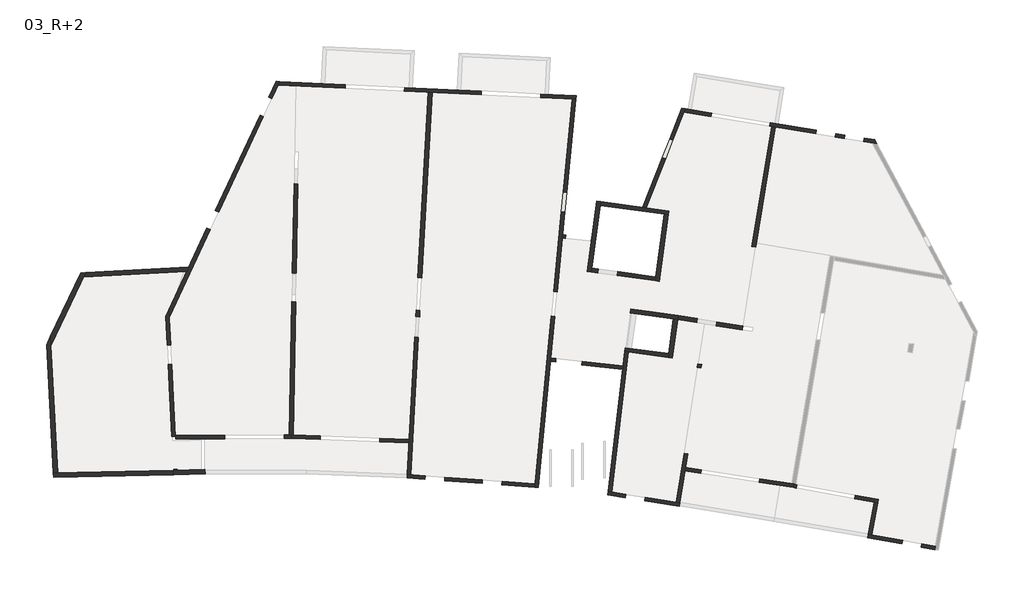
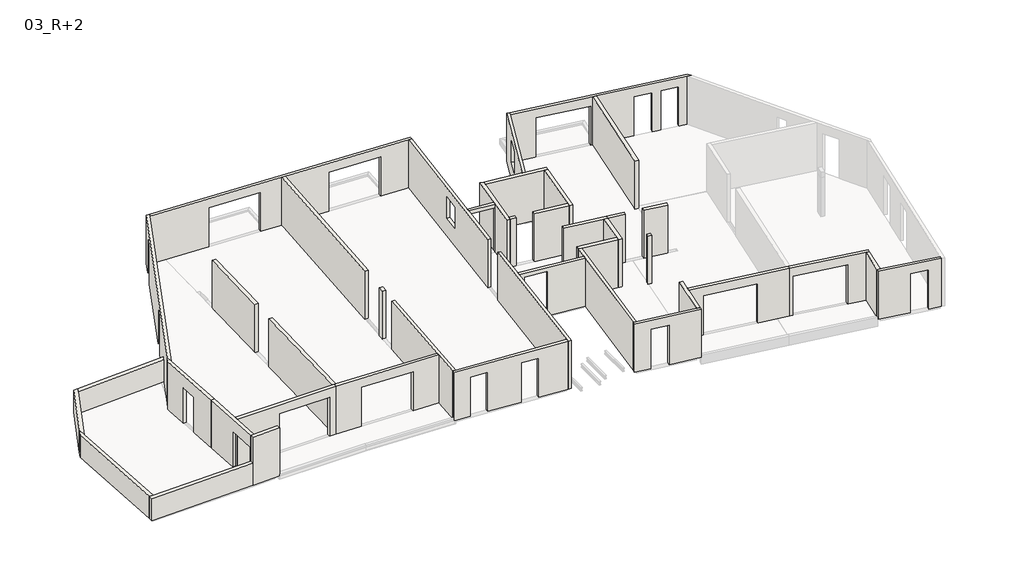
# One storey, part 1 of 2: 42 walls.
"""IFC4 building model written with IfcOpenShell, lengths in millimetres."""

import ifcopenshell
import ifcopenshell.guid

model = None  # the IFC model being written
_history = None  # IfcOwnerHistory: only IFC2X3 demands one
_inside = {}  # id of a spatial element -> (the spatial element, [elements in it])
_under = {}  # id of a project, library or spatial element -> (it, [spatial elements below it])
_declared = {}  # id of a project -> (the project, [libraries it declares])
_typed = {}  # id of a type object -> (the type object, [elements of that type])
_made_of = {}  # id of a material, layer set ... -> (it, [elements and type objects made of it])


def new_model(schema):
    """Start an empty IFC model of exactly this schema.

    Asked for "IFC4X3", IfcOpenShell would pick the latest addendum, in which some entities
    have other attributes; the version numbers below select the first issue.
    IFC2X3 requires an IfcOwnerHistory on every rooted entity: one is made here for all.
    """
    global model, _history
    if schema == "IFC4X3":
        model = ifcopenshell.file(schema_version=(4, 3, 0, 0))
    else:
        model = ifcopenshell.file(schema=schema)
    _inside.clear()
    _under.clear()
    _declared.clear()
    _typed.clear()
    _made_of.clear()
    _history = None
    if model.schema == "IFC2X3":
        org = make("IfcOrganization", Name="unknown")
        user = make(
            "IfcPersonAndOrganization",
            ThePerson=make("IfcPerson", FamilyName="unknown"),
            TheOrganization=org,
        )
        app = make(
            "IfcApplication",
            ApplicationDeveloper=org,
            Version="unknown",
            ApplicationFullName="unknown",
            ApplicationIdentifier="unknown",
        )
        _history = make(
            "IfcOwnerHistory",
            OwningUser=user,
            OwningApplication=app,
            ChangeAction="ADDED",
            CreationDate=0,
        )
    return model


def make(cls, **values):
    """One entity of the class cls with the attributes given. An attribute that is None is left unset."""
    return model.create_entity(
        cls, **{name: value for name, value in values.items() if value is not None}
    )


def rooted(cls, **values):
    """An entity with a GlobalId (a new one), such as an element, a storey or a relation."""
    return make(cls, GlobalId=ifcopenshell.guid.new(), OwnerHistory=_history, **values)


def si_unit(unit_type, name, prefix=None):
    """IfcSIUnit, for example si_unit("LENGTHUNIT", "METRE", prefix="MILLI")."""
    return make("IfcSIUnit", UnitType=unit_type, Prefix=prefix, Name=name)


def assignment(units):
    """IfcUnitAssignment: the units of a project."""
    return None if units is None else make("IfcUnitAssignment", Units=units)


def point(xyz):
    """IfcCartesianPoint."""
    return None if xyz is None else make("IfcCartesianPoint", Coordinates=xyz)


def direction(xyz):
    """IfcDirection."""
    return None if xyz is None else make("IfcDirection", DirectionRatios=xyz)


def frame(location, z_axis=None, x_axis=None):
    """IfcAxis2Placement3D, a coordinate frame: its origin and axes. An axis left out is left unset."""
    return make(
        "IfcAxis2Placement3D",
        Location=point(location),
        Axis=direction(z_axis),
        RefDirection=direction(x_axis),
    )


def origin():
    """The frame at (0, 0, 0) with its axes left unset."""
    return frame((0.0, 0.0, 0.0))


def place(relative_to, where):
    """IfcLocalPlacement: puts the frame where relative to a parent placement (None: the world)."""
    return make(
        "IfcLocalPlacement", PlacementRelTo=relative_to, RelativePlacement=where
    )


def context(
    kind, dimensions, precision=None, world=None, true_north=None, identifier=None
):
    """IfcGeometricRepresentationContext, for example the 3D "Model" context."""
    return make(
        "IfcGeometricRepresentationContext",
        ContextIdentifier=identifier,
        ContextType=kind,
        CoordinateSpaceDimension=dimensions,
        Precision=precision,
        WorldCoordinateSystem=world,
        TrueNorth=true_north,
    )


def project(units=None, contexts=None):
    """IfcProject with its units and contexts."""
    return rooted(
        "IfcProject",
        Name="project",
        RepresentationContexts=contexts,
        UnitsInContext=assignment(units),
    )


def spatial(cls, under=None, at=None, **own):
    """A site, building, storey or space (cls), placed at a placement, below another one or the project."""
    s = rooted(cls, ObjectPlacement=at, **own)
    if under is not None:
        _under.setdefault(under.id(), (under, []))[1].append(s)
    return s


def polyline(points):
    """IfcPolyline through the points."""
    return make("IfcPolyline", Points=[point(p) for p in points])


def outline(outer, holes=None, kind="AREA"):
    """IfcArbitraryClosedProfileDef: a profile drawn as a closed curve; with holes, ...WithVoids."""
    if holes is None:
        return make("IfcArbitraryClosedProfileDef", ProfileType=kind, OuterCurve=outer)
    return make(
        "IfcArbitraryProfileDefWithVoids",
        ProfileType=kind,
        OuterCurve=outer,
        InnerCurves=holes,
    )


def extrude(swept, where, along, depth):
    """IfcExtrudedAreaSolid: the profile swept, set in the frame where, extruded along a direction by depth."""
    return make(
        "IfcExtrudedAreaSolid",
        SweptArea=swept,
        Position=where,
        ExtrudedDirection=direction(along),
        Depth=depth,
    )


def faces_of(points, faces, orient=None, outer=None):
    """IfcFace entities. A face is a list of loops; a loop is a list of indices into points, from 0.

    orient and outer hold one flag for each loop. By default every Orientation is true, the
    first loop of a face is its IfcFaceOuterBound and the others are IfcFaceBound.
    """
    made = []
    for i, loops in enumerate(faces):
        bounds = []
        for j, loop in enumerate(loops):
            is_outer = j == 0 if outer is None else outer[i][j]
            bounds.append(
                make(
                    "IfcFaceOuterBound" if is_outer else "IfcFaceBound",
                    Bound=make("IfcPolyLoop", Polygon=[points[k] for k in loop]),
                    Orientation=True if orient is None else orient[i][j],
                )
            )
        made.append(make("IfcFace", Bounds=bounds))
    return made


def faceted_brep(points, faces, orient=None, outer=None, voids=None):
    """IfcFacetedBrep: a solid bounded by flat faces; with voids (closed shells), ...WithVoids."""
    shared = [point(p) for p in points]
    hull = make("IfcClosedShell", CfsFaces=faces_of(shared, faces, orient, outer))
    if voids is None:
        return make("IfcFacetedBrep", Outer=hull)
    return make(
        "IfcFacetedBrepWithVoids",
        Outer=hull,
        Voids=[
            make(cls, CfsFaces=faces_of(shared, fs, o, b)) for cls, fs, o, b in voids
        ],
    )


def shape(context_of_items, identifier, shape_type, items):
    """IfcShapeRepresentation: the items that make up one representation, for example the "Body"."""
    return make(
        "IfcShapeRepresentation",
        ContextOfItems=context_of_items,
        RepresentationIdentifier=identifier,
        RepresentationType=shape_type,
        Items=items,
    )


def made_of(thing, what):
    """Note that an element or type object is made of a material, layer set ...; save() writes the relation."""
    if what is not None:
        _made_of.setdefault(what.id(), (what, []))[1].append(thing)
    return thing


def element(
    cls,
    number,
    at=None,
    inside=None,
    cuts=None,
    type_object=None,
    material=None,
    context=None,
    identifier="Body",
    shape_type=None,
    held_by="IfcProductDefinitionShape",
    body=None,
    shapes=None,
    **own,
):
    """One element of the class cls, such as IfcWall. Its Tag is "e" and its number.

    at: its placement. inside: the storey or other place that contains it. cuts: it is an
    opening in that element (IfcRelVoidsElement). A single representation is given by context,
    identifier, shape_type and body (its items); several are given by shapes. held_by: the class
    of the entity that holds the representations. save() writes the other relations.
    """
    e = rooted(cls, Tag="e%d" % number, ObjectPlacement=at, **own)
    if body is not None:
        shapes = [shape(context, identifier, shape_type, body)]
    if shapes is not None:
        e.Representation = make(held_by, Representations=shapes)
    if inside is not None:
        _inside.setdefault(inside.id(), (inside, []))[1].append(e)
    if cuts is not None:
        rooted(
            "IfcRelVoidsElement", RelatingBuildingElement=cuts, RelatedOpeningElement=e
        )
    if type_object is not None:
        _typed.setdefault(type_object.id(), (type_object, []))[1].append(e)
    return made_of(e, material)


def aggregate(whole, parts):
    """IfcRelAggregates: a whole, such as a stair, and the parts it consists of."""
    return rooted("IfcRelAggregates", RelatingObject=whole, RelatedObjects=parts)


def save(model, path):
    """Write the relations noted so far, then the file.

    IfcRelAggregates (storeys below a building ...), IfcRelContainedInSpatialStructure (elements
    in a storey), IfcRelDefinesByType, IfcRelAssociatesMaterial and IfcRelDeclares: one each for
    every whole, place, type object, material and project.
    """
    for whole, parts in _under.values():
        aggregate(whole, parts)
    for where, things in _inside.values():
        rooted(
            "IfcRelContainedInSpatialStructure",
            RelatedElements=things,
            RelatingStructure=where,
        )
    for kind, things in _typed.values():
        rooted("IfcRelDefinesByType", RelatedObjects=things, RelatingType=kind)
    for what, things in _made_of.values():
        rooted("IfcRelAssociatesMaterial", RelatedObjects=things, RelatingMaterial=what)
    for by, libraries in _declared.values():
        rooted("IfcRelDeclares", RelatingContext=by, RelatedDefinitions=libraries)
    model.write(path)


model = new_model("IFC4")

# Units and contexts
model_context = context("Model", 3, world=origin())
ifc_project = project(units=[si_unit("LENGTHUNIT", "METRE", prefix="MILLI")], contexts=[model_context])

# Site, building, storey
site = spatial("IfcSite", under=ifc_project)
building = spatial("IfcBuilding", under=site)
storey = spatial("IfcBuildingStorey", under=building, Name="03_R+2", Elevation=27140.0)

# Walls
placement = place(None, origin())
element("IfcWall", 1, ObjectType="premur 20", at=placement, inside=storey, context=model_context, shape_type="Brep", body=[
    faceted_brep([(-17122.9595771, -716.472276, 27140.0), (-17433.059508, 5081.1832441, 27140.0), (-17455.5118707, 5500.9545878, 27140.0), (-17455.5118707, 5500.9545878, 28380.0), (-17433.059508, 5081.1832441, 28380.0), (-17122.9595771, -716.472276, 28380.0), (-17322.9942536, -721.1688534, 27140.0), (-17322.9942536, -721.1688534, 28380.0), (-17635.4779747, 5121.054218, 28380.0), (-17635.4779747, 5121.054218, 27140.0)], [[[0, 1, 2, 3, 4, 5]], [[6, 7, 8, 9]], [[2, 1, 0, 6, 9]], [[5, 4, 3, 8, 7]], [[0, 5, 7, 6]], [[3, 2, 9, 8]]]),
])
element("IfcWall", 2, ObjectType="premur 20", at=placement, inside=storey, context=model_context, shape_type="Brep", body=[
    faceted_brep([(-17433.059508, 5081.1832441, 27140.0), (-15952.1811368, 8207.2510334, 27140.0), (-15854.8353502, 8412.7436206, 27140.0), (-15854.8353502, 8412.7436206, 28380.0), (-15952.1811368, 8207.2510334, 28380.0), (-17433.059508, 5081.1832441, 28380.0), (-17455.5118707, 5500.9545878, 27140.0), (-17455.5118707, 5500.9545878, 28380.0), (-16081.8946217, 8400.5989613, 28380.0), (-16081.8946217, 8400.5989613, 27140.0)], [[[0, 1, 2, 3, 4, 5]], [[6, 7, 8, 9]], [[2, 1, 0, 6, 9]], [[5, 4, 3, 8, 7]], [[0, 5, 7, 6]], [[3, 2, 9, 8]]]),
])
element("IfcWall", 3, ObjectType="premur 18", at=placement, inside=storey, context=model_context, shape_type="Brep", body=[
    faceted_brep([(7155.8639507, 8437.1732179, 27140.0), (7180.2923407, 8615.5079357, 27140.0), (7571.2741046, 11469.7943741, 27140.0), (7595.702488, 11648.1290429, 27140.0), (7595.702488, 11648.1290429, 29840.0), (7571.2741046, 11469.7943741, 29840.0), (7180.2923407, 8615.5079357, 29840.0), (7155.8639507, 8437.1732179, 29840.0), (6977.5111672, 8461.4693588, 29840.0), (7417.3678084, 11672.5573469, 29840.0), (7417.3678084, 11672.5573469, 27140.0), (7167.9261447, 9851.5569234, 27140.0), (6977.5111672, 8461.4693588, 27140.0)], [[[0, 1, 2, 3, 4, 5, 6, 7]], [[8, 9, 10, 11, 12]], [[3, 2, 1, 0, 12, 11, 10]], [[7, 6, 5, 4, 9, 8]], [[4, 3, 10, 9]], [[0, 7, 8, 12]]]),
])
element("IfcWall", 4, ObjectType="premur 18", at=placement, inside=storey, context=model_context, shape_type="Brep", body=[
    faceted_brep([(7571.2741046, 11469.7943741, 27140.0), (10483.7664975, 11070.8408458, 27140.0), (10662.1011771, 11046.4125417, 27140.0), (10662.1011771, 11046.4125417, 29840.0), (10483.7664975, 11070.8408458, 29840.0), (7571.2741046, 11469.7943741, 29840.0), (7595.702488, 11648.1290429, 27140.0), (7595.702488, 11648.1290429, 29840.0), (9494.3689629, 11388.0495003, 29840.0), (9657.543771, 11365.6977971, 29840.0), (10686.5295651, 11224.7472099, 29840.0), (10686.5295651, 11224.7472099, 27140.0), (9657.543771, 11365.6977971, 27140.0), (9494.3689629, 11388.0495003, 27140.0)], [[[0, 1, 2, 3, 4, 5]], [[6, 7, 8, 9, 10, 11, 12, 13]], [[2, 1, 0, 6, 13, 12, 11]], [[5, 4, 3, 10, 9, 8, 7]], [[0, 5, 7, 6]], [[3, 2, 11, 10]]]),
])
element("IfcWall", 5, ObjectType="premur 18", at=placement, inside=storey, context=model_context, shape_type="Brep", body=[
    faceted_brep([(10483.7664975, 11070.8408458, 27140.0), (10093.0803231, 8218.7128543, 27140.0), (10068.6519283, 8040.3781371, 27140.0), (10068.6519283, 8040.3781371, 29840.0), (10093.0803231, 8218.7128543, 29840.0), (10483.7664975, 11070.8408458, 29840.0), (10662.1011771, 11046.4125417, 27140.0), (10662.1011771, 11046.4125417, 29840.0), (10247.0047117, 8016.0819962, 29840.0), (10247.0047117, 8016.0819962, 27140.0)], [[[0, 1, 2, 3, 4, 5]], [[6, 7, 8, 9]], [[2, 1, 0, 6, 9]], [[5, 4, 3, 8, 7]], [[0, 5, 7, 6]], [[3, 2, 9, 8]]]),
])
element("IfcWall", 6, ObjectType="premur 18", at=placement, inside=storey, context=model_context, shape_type="Brep", body=[
    faceted_brep([(8933.8340773, 6574.2220976, 27140.0), (10896.4175055, 6306.8645431, 27140.0), (11094.5871528, 6279.8684157, 27140.0), (11094.5871528, 6279.8684157, 29840.0), (10896.4175055, 6306.8645431, 29840.0), (8933.8340773, 6574.2220976, 29840.0), (8958.1305919, 6752.5747802, 27140.0), (8958.1305919, 6752.5747802, 29840.0), (11118.8836675, 6458.2210983, 29840.0), (11118.8836675, 6458.2210983, 27140.0), (11118.8028565, 6457.6278915, 27140.0), (11118.8028565, 6457.6278915, 29840.0)], [[[0, 1, 2, 3, 4, 5]], [[6, 7, 8, 9]], [[2, 1, 0, 6, 9, 10]], [[5, 4, 3, 11, 8, 7]], [[0, 5, 7, 6]], [[3, 2, 10, 9, 8, 11]]]),
])
element("IfcWall", 7, ObjectType="premur 20", at=placement, inside=storey, context=model_context, shape_type="Brep", body=[
    faceted_brep([(10896.4175055, 6306.8645431, 27140.0), (10680.4511709, 4721.5270717, 27140.0), (10656.1546562, 4543.1743891, 27140.0), (10656.1546562, 4543.1743891, 29840.0), (10680.4511709, 4721.5270717, 29840.0), (10896.4175055, 6306.8645431, 29840.0), (11094.5871528, 6279.8684157, 27140.0), (11094.5871528, 6279.8684157, 29840.0), (11094.4954372, 6279.1951614, 29840.0), (10854.3243035, 4516.1782617, 29840.0), (10854.3243035, 4516.1782617, 27140.0), (11094.4954372, 6279.1951614, 27140.0)], [[[0, 1, 2, 3, 4, 5]], [[6, 7, 8, 9, 10, 11]], [[2, 1, 0, 6, 11, 10]], [[5, 4, 3, 9, 8, 7]], [[0, 5, 7, 6]], [[3, 2, 10, 9]]]),
])
element("IfcWall", 8, ObjectType="premur 18", at=placement, inside=storey, context=model_context, shape_type="Brep", body=[
    faceted_brep([(10680.4511709, 4721.5270717, 27140.0), (8715.5935657, 4989.1944313, 27140.0), (8715.5935657, 4989.1944313, 29840.0), (8735.7527171, 4986.4482034, 29840.0), (8916.4361163, 4961.8341813, 29840.0), (10680.4511709, 4721.5270717, 29840.0), (10656.1546562, 4543.1743891, 27140.0), (10656.1546562, 4543.1743891, 29840.0), (8852.5238601, 4788.8782466, 29840.0), (8693.9703348, 4810.4775744, 29840.0), (8693.9703348, 4810.4775744, 27140.0), (8852.5238601, 4788.8782466, 27140.0)], [[[0, 1, 2, 3, 4, 5]], [[6, 7, 8, 9, 10, 11]], [[1, 0, 6, 11, 10]], [[5, 4, 3, 2, 9, 8, 7]], [[0, 5, 7, 6]], [[2, 1, 10, 9]]]),
])
element("IfcWall", 9, ObjectType="Voile BA 16", at=placement, inside=storey, context=model_context, shape_type="Brep", body=[
    faceted_brep([(-6493.0922525, 1016.5815804, 27140.0), (-6493.0922525, 1016.5815804, 29840.0), (-6399.2288055, 1012.9419693, 29840.0), (-1128.8491651, 808.5798612, 29840.0), (-1128.8491651, 808.5798612, 27140.0), (-2469.9503364, 860.5818575, 27140.0), (-2469.9503364, 860.5818575, 29340.0), (-5167.9228342, 965.1973473, 29340.0), (-5167.9228342, 965.1973473, 27140.0), (-6399.2288055, 1012.9419693, 27140.0), (-6499.2916889, 856.7017286, 29840.0), (-6499.2916889, 856.7017286, 27140.0), (-5174.1222707, 805.3174955, 27140.0), (-5174.1222707, 805.3174955, 29340.0), (-2476.1497728, 700.7020058, 29340.0), (-2476.1497728, 700.7020058, 27140.0), (-1137.7742368, 648.8056976, 27140.0), (-1137.7742368, 648.8056976, 29840.0)], [[[0, 1, 2, 3, 4, 5, 6, 7, 8, 9]], [[10, 11, 12, 13, 14, 15, 16, 17]], [[11, 0, 9, 8, 12]], [[4, 16, 15, 5]], [[1, 0, 11, 10]], [[3, 2, 1, 10, 17]], [[4, 3, 17, 16]], [[14, 6, 5, 15]], [[6, 14, 13, 7]], [[7, 13, 12, 8]]]),
])
element("IfcWall", 10, ObjectType="Voile BA 16", at=placement, inside=storey, context=model_context, shape_type="Brep", body=[
    faceted_brep([(-11766.2114441, 987.6154111, 27140.0), (-11766.2114441, 987.6154111, 29840.0), (-6493.6714817, 1016.6866294, 29840.0), (-6493.6714817, 1016.6866294, 27140.0), (-6824.777788, 1014.8610076, 27140.0), (-6824.777788, 1014.8610076, 29340.0), (-9524.7367477, 999.9742364, 29340.0), (-9524.7367477, 999.9742364, 27140.0), (-6492.7893026, 856.6890614, 29840.0), (-11765.329265, 827.6178431, 29840.0), (-11765.329265, 827.6178431, 29140.0), (-11763.7311484, 827.6266547, 29140.0), (-11763.7311484, 827.6266547, 27140.0), (-9523.8545687, 839.9766684, 27140.0), (-9523.8545687, 839.9766684, 29340.0), (-6823.895609, 854.8634397, 29340.0), (-6823.895609, 854.8634397, 27140.0), (-6492.7893026, 856.6890614, 27140.0), (-11765.5147017, 861.2498081, 27140.0), (-11765.5147017, 861.2498081, 29140.0)], [[[0, 1, 2, 3, 4, 5, 6, 7]], [[8, 9, 10, 11, 12, 13, 14, 15, 16, 17]], [[3, 17, 16, 4]], [[0, 7, 13, 12, 18]], [[1, 0, 18, 19, 10, 9]], [[2, 1, 9, 8]], [[3, 2, 8, 17]], [[6, 14, 13, 7]], [[14, 6, 5, 15]], [[15, 5, 4, 16]], [[11, 19, 18, 12]], [[19, 11, 10]]]),
])
element("IfcWall", 11, ObjectType="Voile BA 16", at=placement, inside=storey, context=model_context, shape_type="Brep", body=[
    faceted_brep([(-12075.993781, 6714.3330715, 29840.0), (-12058.0443946, 6375.9551937, 29840.0), (-11866.1757261, 2758.889328, 29840.0), (-11866.1757261, 2758.889328, 27140.0), (-11944.0704499, 4227.3434988, 27140.0), (-11944.0704499, 4227.3434988, 29140.0), (-11991.7442751, 5126.0799487, 29140.0), (-11991.7442751, 5126.0799487, 27140.0), (-12058.0443946, 6375.9551937, 27140.0), (-12075.993781, 6714.3330715, 27140.0), (-12025.9510949, 2750.4139813, 29840.0), (-12219.94673, 6407.5769515, 29840.0), (-12219.94673, 6407.5769515, 27140.0), (-12151.519644, 5117.604602, 27140.0), (-12151.519644, 5117.604602, 29140.0), (-12103.8458187, 4218.8681521, 29140.0), (-12103.8458187, 4218.8681521, 27140.0), (-12025.9510949, 2750.4139813, 27140.0)], [[[0, 1, 2, 3, 4, 5, 6, 7, 8, 9]], [[10, 11, 12, 13, 14, 15, 16, 17]], [[3, 17, 16, 4]], [[12, 9, 8, 7, 13]], [[2, 1, 0, 11, 10]], [[3, 2, 10, 17]], [[0, 9, 12, 11]], [[15, 5, 4, 16]], [[5, 15, 14, 6]], [[6, 14, 13, 7]]]),
])
element("IfcWall", 12, ObjectType="Voile BA 16", at=placement, inside=storey, context=model_context, shape_type="Brep", body=[
    faceted_brep([(-7017.9135499, 17116.2074278, 29840.0), (-7091.4131885, 16959.5835857, 29840.0), (-12058.0443946, 6375.9551937, 29840.0), (-12058.0443946, 6375.9551937, 27140.0), (-10187.14104, 10362.7512815, 27140.0), (-10187.14104, 10362.7512815, 29340.0), (-9804.7999627, 11177.4998934, 29340.0), (-9804.7999627, 11177.4998934, 27140.0), (-7769.8957847, 15513.7730613, 27140.0), (-7769.8957847, 15513.7730613, 29340.0), (-7387.5547074, 16328.5216732, 29340.0), (-7387.5547074, 16328.5216732, 27140.0), (-7091.4131885, 16959.5835857, 27140.0), (-7017.9135499, 17116.2074278, 27140.0), (-12075.993781, 6714.3330715, 29840.0), (-7190.7226984, 17124.5873438, 29840.0), (-7190.7226984, 17124.5873438, 27140.0), (-7532.3989051, 16396.4934203, 27140.0), (-7532.3989051, 16396.4934203, 29340.0), (-7914.7399824, 15581.7448084, 29340.0), (-7914.7399824, 15581.7448084, 27140.0), (-9949.6441604, 11245.4716405, 27140.0), (-9949.6441604, 11245.4716405, 29340.0), (-10331.9852377, 10430.7230286, 29340.0), (-10331.9852377, 10430.7230286, 27140.0), (-11161.1611917, 8663.7929297, 27140.0), (-11257.5701926, 8458.3504481, 27140.0), (-12075.993781, 6714.3330715, 27140.0)], [[[0, 1, 2, 3, 4, 5, 6, 7, 8, 9, 10, 11, 12, 13]], [[14, 15, 16, 17, 18, 19, 20, 21, 22, 23, 24, 25, 26, 27]], [[3, 27, 26, 25, 24, 4]], [[16, 13, 12, 11, 17]], [[20, 8, 7, 21]], [[2, 1, 0, 15, 14]], [[3, 2, 14, 27]], [[0, 13, 16, 15]], [[9, 8, 20, 19]], [[11, 10, 18, 17]], [[18, 10, 9, 19]], [[6, 22, 21, 7]], [[23, 5, 4, 24]], [[5, 23, 22, 6]]]),
])
element("IfcWall", 13, ObjectType="Voile BA 16", at=placement, inside=storey, context=model_context, shape_type="Brep", body=[
    faceted_brep([(6453.3479524, 16302.7667325, 29840.0), (6293.3492324, 16310.5254411, 29840.0), (-86.6153514, 16619.9047072, 29840.0), (-266.4089425, 16628.6233151, 29840.0), (-7091.4131885, 16959.5835857, 29840.0), (-7091.4131885, 16959.5835857, 27140.0), (-4042.8023042, 16811.7493797, 27140.0), (-4042.8023042, 16811.7493797, 29340.0), (-1345.971248, 16680.9737928, 29340.0), (-1345.971248, 16680.9737928, 27140.0), (-266.4089425, 16628.6233151, 27140.0), (-86.6153514, 16619.9047072, 27140.0), (2153.7857674, 16511.2624656, 27140.0), (2153.7857674, 16511.2624656, 29340.0), (4850.6168237, 16380.4868787, 29340.0), (4850.6168237, 16380.4868787, 27140.0), (6293.3492324, 16310.5254411, 27140.0), (6453.3479524, 16302.7667325, 27140.0), (-7017.9135499, 17116.2074278, 29840.0), (6468.8208087, 16462.2044277, 29840.0), (6468.8208087, 16462.2044277, 27140.0), (4858.3664881, 16540.2990894, 27140.0), (4858.3664881, 16540.2990894, 29340.0), (2161.5354318, 16671.0746763, 29340.0), (2161.5354318, 16671.0746763, 27140.0), (-1338.2215836, 16840.7860035, 27140.0), (-1338.2215836, 16840.7860035, 29340.0), (-4035.0526398, 16971.5615905, 29340.0), (-4035.0526398, 16971.5615905, 27140.0), (-7017.9135499, 17116.2074278, 27140.0)], [[[0, 1, 2, 3, 4, 5, 6, 7, 8, 9, 10, 11, 12, 13, 14, 15, 16, 17]], [[18, 19, 20, 21, 22, 23, 24, 25, 26, 27, 28, 29]], [[5, 29, 28, 6]], [[20, 17, 16, 15, 21]], [[24, 12, 11, 10, 9, 25]], [[4, 3, 2, 1, 0, 19, 18]], [[5, 4, 18, 29]], [[0, 17, 20, 19]], [[14, 22, 21, 15]], [[22, 14, 13, 23]], [[23, 13, 12, 24]], [[8, 26, 25, 9]], [[26, 8, 7, 27]], [[27, 7, 6, 28]]]),
])
element("IfcWall", 14, ObjectType="Voile BA 16", at=placement, inside=storey, context=model_context, shape_type="Brep", body=[
    faceted_brep([(6293.3492324, 16310.5254411, 27140.0), (5442.2874853, 7540.8890715, 27140.0), (5442.2874853, 7540.8890715, 29840.0), (6293.3492324, 16310.5254411, 29840.0), (5795.9929664, 11185.5934208, 29340.0), (5795.9929664, 11185.5934208, 28140.0), (5882.9263274, 12081.3850209, 28140.0), (5882.9263274, 12081.3850209, 29340.0), (5601.5393253, 7525.4342518, 27140.0), (5839.9607897, 9982.21198, 27140.0), (5855.4156231, 10141.4639605, 27140.0), (6453.3479524, 16302.7667325, 27140.0), (6453.3479524, 16302.7667325, 29840.0), (5855.4156231, 10141.4639605, 29840.0), (5839.9607897, 9982.21198, 29840.0), (5601.5393253, 7525.4342518, 29840.0), (5955.2448064, 11170.1386011, 28140.0), (5955.2448064, 11170.1386011, 29340.0), (6042.1781674, 12065.9302011, 29340.0), (6042.1781674, 12065.9302011, 28140.0)], [[[0, 1, 2, 3], [4, 5, 6, 7]], [[8, 9, 10, 11, 12, 13, 14, 15], [16, 17, 18, 19]], [[1, 0, 11, 10, 9, 8]], [[2, 1, 8, 15]], [[3, 2, 15, 14, 13, 12]], [[0, 3, 12, 11]], [[16, 5, 4, 17]], [[17, 4, 7, 18]], [[18, 7, 6, 19]], [[5, 16, 19, 6]]]),
])
element("IfcWall", 15, ObjectType="Voile BA 16", at=placement, inside=storey, context=model_context, shape_type="Brep", body=[
    faceted_brep([(-1217.7773089, -783.3871672, 29840.0), (-1058.1709907, -794.9001121, 29840.0), (4593.763886, -1202.5933393, 29840.0), (4593.763886, -1202.5933393, 27140.0), (3098.5876965, -1094.7412109, 27140.0), (3098.5876965, -1094.7412109, 29340.0), (2200.9200504, -1029.9893998, 29340.0), (2200.9200504, -1029.9893998, 27140.0), (495.3405093, -906.9601642, 27140.0), (495.3405093, -906.9601642, 29340.0), (-402.3271369, -842.2083531, 29340.0), (-402.3271369, -842.2083531, 27140.0), (-1058.1709907, -794.9001121, 27140.0), (-1217.7773089, -783.3871672, 27140.0), (4578.3043373, -1361.8939077, 29840.0), (-1177.4784378, -946.7097794, 29840.0), (-1226.7022559, -943.1590985, 29840.0), (-1226.7022559, -943.1590985, 29440.0), (-1226.7022559, -943.1590985, 27140.0), (-413.83857, -1001.7937124, 27140.0), (-413.83857, -1001.7937124, 29340.0), (483.8290762, -1066.5455235, 29340.0), (483.8290762, -1066.5455235, 27140.0), (2189.4086173, -1189.5747591, 27140.0), (2189.4086173, -1189.5747591, 29340.0), (3087.0762634, -1254.3265702, 29340.0), (3087.0762634, -1254.3265702, 27140.0), (4578.3043373, -1361.8939077, 27140.0)], [[[0, 1, 2, 3, 4, 5, 6, 7, 8, 9, 10, 11, 12, 13]], [[14, 15, 16, 17, 18, 19, 20, 21, 22, 23, 24, 25, 26, 27]], [[3, 27, 26, 4]], [[18, 13, 12, 11, 19]], [[22, 8, 7, 23]], [[2, 1, 0, 16, 15, 14]], [[3, 2, 14, 27]], [[0, 13, 18, 17, 16]], [[10, 20, 19, 11]], [[20, 10, 9, 21]], [[21, 9, 8, 22]], [[25, 5, 4, 26]], [[5, 25, 24, 6]], [[6, 24, 23, 7]]]),
])
element("IfcWall", 16, ObjectType="Voile BA 16", at=placement, inside=storey, context=model_context, shape_type="Brep", body=[
    faceted_brep([(-1058.1709907, -794.9001121, 27140.0), (-708.5386221, 5464.1218259, 27140.0), (-708.5386221, 5464.1218259, 29840.0), (-1058.1709907, -794.9001121, 29840.0), (-1217.7773089, -783.3871672, 27140.0), (-1217.7773089, -783.3871672, 29840.0), (-1137.7742368, 648.8056976, 29840.0), (-1128.8491651, 808.5798612, 29840.0), (-868.2895727, 5473.0456008, 29840.0), (-868.2895727, 5473.0456008, 27140.0), (-1128.8491651, 808.5798612, 27140.0), (-1137.7742368, 648.8056976, 27140.0)], [[[0, 1, 2, 3]], [[4, 5, 6, 7, 8, 9, 10, 11]], [[1, 0, 4, 11, 10, 9]], [[2, 1, 9, 8]], [[3, 2, 8, 7, 6, 5]], [[0, 3, 5, 4]]]),
])
element("IfcWall", 17, ObjectType="Voile BA 16", at=placement, inside=storey, context=model_context, shape_type="Brep", body=[
    faceted_brep([(7167.9261447, 9851.5569234, 29840.0), (5839.9607897, 9982.21198, 29840.0), (5839.9607897, 9982.21198, 27140.0), (5973.6923634, 9969.0544784, 27140.0), (5973.6923634, 9969.0544784, 29640.0), (7167.9261447, 9851.5569234, 29640.0), (5855.4156231, 10141.4639605, 29840.0), (7189.6560012, 10010.1915207, 29840.0), (7189.6560012, 10010.1915207, 27140.0), (7183.5924854, 10010.7880942, 27140.0), (7183.5924854, 10010.7880942, 29640.0), (5989.358704, 10128.2856492, 29640.0), (5989.358704, 10128.2856492, 27140.0), (5855.4156231, 10141.4639605, 27140.0), (7167.9261447, 9851.5569234, 27140.0)], [[[0, 1, 2, 3, 4, 5]], [[6, 7, 8, 9, 10, 11, 12, 13]], [[8, 14, 9]], [[2, 13, 12, 3]], [[1, 0, 7, 6]], [[14, 8, 7, 0, 5]], [[5, 10, 9, 14]], [[11, 4, 3, 12]], [[4, 11, 10, 5]], [[2, 1, 6, 13]]]),
])
element("IfcWall", 18, ObjectType="Voile BA 16", at=placement, inside=storey, context=model_context, shape_type="Brep", body=[
    faceted_brep([(9657.543771, 11365.6977971, 27140.0), (11375.9056437, 15723.8760304, 27140.0), (11435.9497903, 15876.1624009, 27140.0), (11435.9497903, 15876.1624009, 29840.0), (11375.9056437, 15723.8760304, 29840.0), (9657.543771, 11365.6977971, 29840.0), (10869.1509364, 14438.624437, 28140.0), (10539.0287972, 13601.3554401, 28140.0), (10539.0287972, 13601.3554401, 29340.0), (10869.1509364, 14438.624437, 29340.0), (9494.3689629, 11388.0495003, 27140.0), (9494.3689629, 11388.0495003, 29840.0), (11274.4144331, 15902.6721451, 29840.0), (11274.4144331, 15902.6721451, 27140.0), (10720.3031147, 14497.3128174, 28140.0), (10720.3031147, 14497.3128174, 29340.0), (10390.1809755, 13660.0438204, 29340.0), (10390.1809755, 13660.0438204, 28140.0)], [[[0, 1, 2, 3, 4, 5], [6, 7, 8, 9]], [[10, 11, 12, 13], [14, 15, 16, 17]], [[2, 1, 0, 10, 13]], [[5, 4, 3, 12, 11]], [[0, 5, 11, 10]], [[3, 2, 13, 12]], [[15, 14, 6, 9]], [[16, 15, 9, 8]], [[17, 16, 8, 7]], [[14, 17, 7, 6]]]),
])
element("IfcWall", 19, ObjectType="Voile BA 16", at=placement, inside=storey, context=model_context, shape_type="Brep", body=[
    faceted_brep([(20156.6839049, 14282.8529027, 29840.0), (19957.6989971, 14315.5085337, 29840.0), (15544.701624, 15039.7303609, 29840.0), (15367.0776199, 15068.8804306, 29840.0), (11375.9056437, 15723.8760304, 29840.0), (11375.9056437, 15723.8760304, 27140.0), (12608.1566021, 15521.6499774, 27140.0), (12608.1566021, 15521.6499774, 29340.0), (15272.5161129, 15084.399023, 29340.0), (15272.5161129, 15084.399023, 27140.0), (15367.0776199, 15068.8804306, 27140.0), (15544.701624, 15039.7303609, 27140.0), (17380.3093461, 14738.4867693, 27140.0), (17380.3093461, 14738.4867693, 29340.0), (18268.429183, 14592.7364511, 29340.0), (18268.429183, 14592.7364511, 27140.0), (18676.7535507, 14525.7258924, 27140.0), (18676.7535507, 14525.7258924, 29340.0), (19564.8733876, 14379.9755742, 29340.0), (19564.8733876, 14379.9755742, 27140.0), (19957.6989971, 14315.5085337, 27140.0), (20156.6839049, 14282.8529027, 27140.0), (11435.9497903, 15876.1624009, 29840.0), (20061.490233, 14460.6155215, 29840.0), (20061.490233, 14460.6155215, 27140.0), (19590.7845553, 14537.8635453, 27140.0), (19590.7845553, 14537.8635453, 29340.0), (18702.6647183, 14683.6138634, 29340.0), (18702.6647183, 14683.6138634, 27140.0), (18294.3403507, 14750.6244221, 27140.0), (18294.3403507, 14750.6244221, 29340.0), (17406.2205138, 14896.3747403, 29340.0), (17406.2205138, 14896.3747403, 27140.0), (15298.4272806, 15242.286994, 27140.0), (15298.4272806, 15242.286994, 29340.0), (12634.0677698, 15679.5379484, 29340.0), (12634.0677698, 15679.5379484, 27140.0), (11718.0041077, 15829.8741583, 27140.0), (11569.9841349, 15854.165878, 27140.0), (11435.9497903, 15876.1624009, 27140.0)], [[[0, 1, 2, 3, 4, 5, 6, 7, 8, 9, 10, 11, 12, 13, 14, 15, 16, 17, 18, 19, 20, 21]], [[22, 23, 24, 25, 26, 27, 28, 29, 30, 31, 32, 33, 34, 35, 36, 37, 38, 39]], [[5, 39, 38, 37, 36, 6]], [[24, 21, 20, 19, 25]], [[15, 29, 28, 16]], [[32, 12, 11, 10, 9, 33]], [[4, 3, 2, 1, 0, 23, 22]], [[5, 4, 22, 39]], [[0, 21, 24, 23]], [[19, 18, 26, 25]], [[17, 16, 28, 27]], [[15, 14, 30, 29]], [[13, 12, 32, 31]], [[35, 7, 6, 36]], [[7, 35, 34, 8]], [[8, 34, 33, 9]], [[13, 31, 30, 14]], [[17, 27, 26, 18]]]),
])
element("IfcWall", 20, ObjectType="Voile BA 16", at=placement, inside=storey, context=model_context, shape_type="Brep", body=[
    faceted_brep([(19774.0416143, -3500.7447651, 29840.0), (19931.4116979, -3529.6444188, 29840.0), (22823.383738, -4060.730051, 29840.0), (22823.383738, -4060.730051, 27140.0), (22212.9969932, -3948.6378088, 27140.0), (22212.9969932, -3948.6378088, 29340.0), (21327.7994913, -3786.0789499, 29340.0), (21327.7994913, -3786.0789499, 27140.0), (19931.4116979, -3529.6444188, 27140.0), (19774.0416143, -3500.7447651, 27140.0), (22795.2075266, -4218.2312944, 29840.0), (19745.8604473, -3658.2450985, 29840.0), (19745.8604473, -3658.2450985, 27140.0), (21298.9001386, -3943.4473947, 27140.0), (21298.9001386, -3943.4473947, 29340.0), (22184.0976405, -4106.0062536, 29340.0), (22184.0976405, -4106.0062536, 27140.0), (22795.2075266, -4218.2312944, 27140.0)], [[[0, 1, 2, 3, 4, 5, 6, 7, 8, 9]], [[10, 11, 12, 13, 14, 15, 16, 17]], [[3, 17, 16, 4]], [[12, 9, 8, 7, 13]], [[2, 1, 0, 11, 10]], [[3, 2, 10, 17]], [[0, 9, 12, 11]], [[6, 14, 13, 7]], [[14, 6, 5, 15]], [[15, 5, 4, 16]]]),
])
element("IfcWall", 21, ObjectType="Voile BA 16", at=placement, inside=storey, context=model_context, shape_type="SweptSolid", body=[
    extrude(outline(polyline([(20191.299813, -2077.1685585), (19931.4116979, -3529.6444188), (19774.0416143, -3500.7447651), (20033.8664444, -2048.6225954), (20191.299813, -2077.1685585)])), frame((0.0, 0.0, 27140.0), z_axis=(0.0, 0.0, 1.0), x_axis=(1.0, 0.0, 0.0)), (0.0, 0.0, 1.0), 2700.0),
])
element("IfcWall", 22, ObjectType="Voile BA 16", at=placement, inside=storey, context=model_context, shape_type="Brep", body=[
    faceted_brep([(16371.0973667, -1221.8770274, 27140.0), (16371.0973667, -1221.8770274, 29840.0), (20219.4807622, -1919.6694421, 29840.0), (20219.4807622, -1919.6694421, 27140.0), (19177.8133819, -1730.7933552, 27140.0), (19177.8133819, -1730.7933552, 29340.0), (16521.1324245, -1249.081522, 29340.0), (16521.1324245, -1249.081522, 27140.0), (16342.5514803, -1379.309973, 29840.0), (16342.5514803, -1379.309973, 27140.0), (16492.5865381, -1406.5144676, 27140.0), (16492.5865381, -1406.5144676, 29340.0), (19149.2674955, -1888.2263009, 29340.0), (19149.2674955, -1888.2263009, 27140.0), (20033.8664444, -2048.6225954, 27140.0), (20191.299813, -2077.1685585, 27140.0), (20191.299813, -2077.1685585, 29840.0), (20033.8664444, -2048.6225954, 29840.0)], [[[0, 1, 2, 3, 4, 5, 6, 7]], [[8, 9, 10, 11, 12, 13, 14, 15, 16, 17]], [[9, 0, 7, 10]], [[3, 15, 14, 13, 4]], [[1, 0, 9, 8]], [[2, 1, 8, 17, 16]], [[6, 11, 10, 7]], [[11, 6, 5, 12]], [[12, 5, 4, 13]], [[3, 2, 16, 15]]]),
])
element("IfcWall", 23, ObjectType="Voile BA 16", at=placement, inside=storey, context=model_context, shape_type="Brep", body=[
    faceted_brep([(11446.8651464, -452.2120947, 29840.0), (16370.1397401, -1221.7033896, 29840.0), (16370.1397401, -1221.7033896, 27140.0), (14829.4808117, -980.9035701, 27140.0), (14829.4808117, -980.9035701, 29340.0), (12161.8673018, -563.9645318, 29340.0), (12161.8673018, -563.9645318, 27140.0), (11446.8651464, -452.2120947, 27140.0), (16345.4322415, -1379.7841902, 29840.0), (11422.1571, -610.2928096, 29840.0), (11422.1571, -610.2928096, 27140.0), (12137.1598032, -722.0453324, 27140.0), (12137.1598032, -722.0453324, 29340.0), (14804.7733131, -1138.9843706, 29340.0), (14804.7733131, -1138.9843706, 27140.0), (16345.4322415, -1379.7841902, 27140.0)], [[[0, 1, 2, 3, 4, 5, 6, 7]], [[8, 9, 10, 11, 12, 13, 14, 15]], [[2, 15, 14, 3]], [[10, 7, 6, 11]], [[1, 0, 9, 8]], [[2, 1, 8, 15]], [[5, 12, 11, 6]], [[12, 5, 4, 13]], [[13, 4, 3, 14]], [[0, 7, 10, 9]]]),
])
element("IfcWall", 24, ObjectType="Voile BA 16", at=placement, inside=storey, context=model_context, shape_type="Brep", body=[
    faceted_brep([(7922.8865361, -1562.560442, 29840.0), (8081.0248123, -1587.59182, 29840.0), (11034.3948374, -2055.0746039, 29840.0), (11192.4276254, -2080.0892844, 29840.0), (11192.4276254, -2080.0892844, 27140.0), (11034.3948374, -2055.0746039, 27140.0), (9622.2311521, -1831.5461583, 27140.0), (9622.2311521, -1831.5461583, 29340.0), (8733.298392, -1690.8388451, 29340.0), (8733.298392, -1690.8388451, 27140.0), (8081.0248123, -1587.59182, 27140.0), (7922.8865361, -1562.560442, 27140.0), (11167.7195324, -2238.1702968, 29840.0), (7903.6551804, -1721.5083557, 29840.0), (7903.6551804, -1721.5083557, 27140.0), (8708.2837586, -1848.8713358, 27140.0), (8708.2837586, -1848.8713358, 29340.0), (9597.2165187, -1989.578649, 29340.0), (9597.2165187, -1989.578649, 27140.0), (11167.7195324, -2238.1702968, 27140.0)], [[[0, 1, 2, 3, 4, 5, 6, 7, 8, 9, 10, 11]], [[12, 13, 14, 15, 16, 17, 18, 19]], [[14, 11, 10, 9, 15]], [[4, 19, 18, 6, 5]], [[3, 2, 1, 0, 13, 12]], [[0, 11, 14, 13]], [[4, 3, 12, 19]], [[17, 7, 6, 18]], [[8, 16, 15, 9]], [[16, 8, 7, 17]]]),
])
element("IfcWall", 25, ObjectType="Voile BA 16", at=placement, inside=storey, context=model_context, shape_type="SweptSolid", body=[
    extrude(outline(polyline([(8852.5238601, 4788.8782466), (8081.0248123, -1587.59182), (7922.8865361, -1562.560442), (8693.9703348, 4810.4775744), (8852.5238601, 4788.8782466)])), frame((0.0, 0.0, 27140.0), z_axis=(0.0, 0.0, 1.0), x_axis=(1.0, 0.0, 0.0)), (0.0, 0.0, 1.0), 2700.0),
])
element("IfcWall", 26, ObjectType="Voile BA 16", at=placement, inside=storey, context=model_context, shape_type="Brep", body=[
    faceted_brep([(5311.2009379, 4533.6864847, 29840.0), (8615.1949896, 4159.3962386, 29840.0), (8615.1949896, 4159.3962386, 27140.0), (6745.4788441, 4371.2054929, 27140.0), (6745.4788441, 4371.2054929, 29640.0), (5553.1054985, 4506.2825257, 29640.0), (5553.1054985, 4506.2825257, 27140.0), (5311.2009379, 4533.6864847, 27140.0), (8595.9759431, 4000.550061, 29840.0), (5295.7441249, 4374.4141056, 29840.0), (5295.7441249, 4374.4141056, 27140.0), (5535.0952275, 4347.299413, 27140.0), (5535.0952275, 4347.299413, 29640.0), (6727.468573, 4212.2223801, 29640.0), (6727.468573, 4212.2223801, 27140.0), (8595.9759431, 4000.550061, 27140.0)], [[[0, 1, 2, 3, 4, 5, 6, 7]], [[8, 9, 10, 11, 12, 13, 14, 15]], [[2, 15, 14, 3]], [[10, 7, 6, 11]], [[1, 0, 9, 8]], [[2, 1, 8, 15]], [[13, 4, 3, 14]], [[5, 12, 11, 6]], [[12, 5, 4, 13]], [[0, 7, 10, 9]]]),
])
element("IfcWall", 27, ObjectType="Voile BA 16", at=placement, inside=storey, context=model_context, shape_type="Brep", body=[
    faceted_brep([(11382.5998805, 172.7220068, 27140.0), (11034.3948374, -2055.0746039, 27140.0), (11034.3948374, -2055.0746039, 29840.0), (11382.5998805, 172.7220068, 29840.0), (11540.6805955, 148.0139603, 27140.0), (11540.6805955, 148.0139603, 29840.0), (11446.8651464, -452.2120947, 29840.0), (11422.1571, -610.2928096, 29840.0), (11192.4276254, -2080.0892844, 29840.0), (11192.4276254, -2080.0892844, 27140.0), (11422.1571, -610.2928096, 27140.0), (11446.8651464, -452.2120947, 27140.0), (11113.4112314, -2067.5819441, 29840.0)], [[[0, 1, 2, 3]], [[4, 5, 6, 7, 8, 9, 10, 11]], [[1, 0, 4, 11, 10, 9]], [[3, 2, 12, 8, 7, 6, 5]], [[0, 3, 5, 4]], [[2, 1, 9, 8, 12]]]),
])
element("IfcWall", 28, ObjectType="Voile BA 16", at=placement, inside=storey, context=model_context, shape_type="Brep", body=[
    faceted_brep([(5333.9587431, 6424.6320191, 27140.0), (4593.763886, -1202.5933393, 27140.0), (4578.3043373, -1361.8939077, 27140.0), (4578.3043373, -1361.8939077, 29840.0), (4593.763886, -1202.5933393, 29840.0), (5333.9587431, 6424.6320191, 29840.0), (5493.2105831, 6409.1771993, 27140.0), (5493.2105831, 6409.1771993, 29840.0), (5311.2009379, 4533.6864847, 29840.0), (5295.7441249, 4374.4141056, 29840.0), (4737.938527, -1373.408863, 29840.0), (4737.938527, -1373.408863, 27140.0), (5295.7441249, 4374.4141056, 27140.0), (5311.2009379, 4533.6864847, 27140.0)], [[[0, 1, 2, 3, 4, 5]], [[6, 7, 8, 9, 10, 11, 12, 13]], [[2, 1, 0, 6, 13, 12, 11]], [[5, 4, 3, 10, 9, 8, 7]], [[0, 5, 7, 6]], [[3, 2, 11, 10]]]),
])
element("IfcWall", 29, ObjectType="Voile BA 16", at=placement, inside=storey, context=model_context, shape_type="Brep", body=[
    faceted_brep([(-11848.5105581, -594.6559914, 29840.0), (-12025.9510985, 2750.4139811, 29840.0), (-12025.9510985, 2750.4139811, 27140.0), (-11930.1398603, 944.2016282, 27140.0), (-11930.1398603, 944.2016282, 29140.0), (-11850.6834848, -553.6924549, 29140.0), (-11850.6834848, -553.6924549, 27140.0), (-11848.5105581, -594.6559914, 27140.0), (-11866.1757296, 2758.8893279, 29840.0), (-11688.4824334, -590.9455417, 29840.0), (-11688.4824334, -590.9455417, 27140.0), (-11690.908116, -545.2171082, 27140.0), (-11690.908116, -545.2171082, 29140.0), (-11770.3644914, 952.676975, 29140.0), (-11770.3644914, 952.676975, 27140.0), (-11866.1757296, 2758.8893279, 27140.0), (-11842.5814609, -594.5185179, 27140.0), (-11842.5814609, -594.5185179, 29840.0)], [[[0, 1, 2, 3, 4, 5, 6, 7]], [[8, 9, 10, 11, 12, 13, 14, 15]], [[2, 15, 14, 3]], [[10, 16, 7, 6, 11]], [[1, 0, 17, 9, 8]], [[2, 1, 8, 15]], [[0, 7, 16, 10, 9, 17]], [[5, 12, 11, 6]], [[12, 5, 4, 13]], [[13, 4, 3, 14]]]),
])
element("IfcWall", 30, ObjectType="Voile BA 18", at=placement, inside=storey, context=model_context, shape_type="SweptSolid", body=[
    extrude(outline(polyline([(-86.6153514, 16619.9047072), (-558.7857366, 8167.2410965), (-738.5055561, 8177.2803433), (-266.4089425, 16628.6233151), (-86.6153514, 16619.9047072)])), frame((0.0, 0.0, 27140.0), z_axis=(0.0, 0.0, 1.0), x_axis=(1.0, 0.0, 0.0)), (0.0, 0.0, 1.0), 2700.0),
])
element("IfcWall", 31, ObjectType="Voile BA 18", at=placement, inside=storey, context=model_context, shape_type="Brep", body=[
    faceted_brep([(-6399.2288055, 1012.9419693, 27140.0), (-6290.4758453, 7082.0870399, 27140.0), (-6290.4758453, 7082.0870399, 29840.0), (-6399.2288055, 1012.9419693, 29840.0), (-6579.1327005, 1019.91785, 27140.0), (-6579.1327005, 1019.91785, 29840.0), (-6470.4469542, 7085.3119408, 29840.0), (-6470.4469542, 7085.3119408, 27140.0), (-6493.0922525, 1016.5815804, 27140.0), (-6493.0922525, 1016.5815804, 29840.0)], [[[0, 1, 2, 3]], [[4, 5, 6, 7]], [[1, 0, 8, 4, 7]], [[2, 1, 7, 6]], [[3, 2, 6, 5, 9]], [[0, 3, 9, 5, 4, 8]]]),
])
element("IfcWall", 32, ObjectType="Voile BA 18", at=placement, inside=storey, context=model_context, shape_type="Brep", body=[
    faceted_brep([(-6266.9672966, 8385.4560852, 27140.0), (-6191.6437149, 12453.6523819, 27140.0), (-6191.6437149, 12453.6523819, 29840.0), (-6266.9672966, 8385.4560852, 29840.0), (-6446.9364513, 8388.7882551, 27140.0), (-6446.9364513, 8388.7882551, 29840.0), (-6371.6128696, 12456.9845518, 29840.0), (-6371.6128696, 12456.9845518, 27140.0), (-6371.7775076, 12448.0925223, 27140.0), (-6376.2659097, 12205.6757316, 27140.0)], [[[0, 1, 2, 3]], [[4, 5, 6, 7, 8, 9]], [[1, 0, 4, 9, 8, 7]], [[2, 1, 7, 6]], [[3, 2, 6, 5]], [[0, 3, 5, 4]]]),
])
element("IfcWall", 33, ObjectType="Voile BA 18", at=placement, inside=storey, context=model_context, shape_type="SweptSolid", body=[
    extrude(outline(polyline([(8369.8747957, 8453.4568459), (10093.0803231, 8218.7128543), (10068.6519283, 8040.3781371), (8345.5786614, 8275.1041115), (8369.8747957, 8453.4568459)])), frame((0.0, 0.0, 27140.0), z_axis=(0.0, 0.0, 1.0), x_axis=(1.0, 0.0, 0.0)), (0.0, 0.0, 1.0), 2700.0),
])
element("IfcWall", 34, ObjectType="Voile BA 18", at=placement, inside=storey, context=model_context, shape_type="SweptSolid", body=[
    extrude(outline(polyline([(14467.4834791, 9609.2203536), (15367.0776199, 15068.8804306), (15544.701624, 15039.7303609), (14645.0886774, 9579.9561515), (14467.4834791, 9609.2203536)])), frame((0.0, 0.0, 27140.0), z_axis=(0.0, 0.0, 1.0), x_axis=(1.0, 0.0, 0.0)), (0.0, 0.0, 1.0), 2700.0),
])
element("IfcWall", 35, ObjectType="Voile BA 18", at=placement, inside=storey, context=model_context, shape_type="SweptSolid", body=[
    extrude(outline(polyline([(11974.3531684, 4088.2118598), (12001.5209271, 4262.121428), (12179.3639683, 4234.3391911), (12152.1962097, 4060.4296229), (11974.3531684, 4088.2118598)])), frame((0.0, 0.0, 27140.0), z_axis=(0.0, 0.0, 1.0), x_axis=(1.0, 0.0, 0.0)), (0.0, 0.0, 1.0), 2700.0),
])
element("IfcWall", 36, ObjectType="Voile BA 18", at=placement, inside=storey, context=model_context, shape_type="SweptSolid", body=[
    extrude(outline(polyline([(-638.6403533, 6688.9050649), (-655.1925808, 6392.591791), (-834.9124001, 6402.631042), (-818.3601726, 6698.9443159), (-638.6403533, 6688.9050649)])), frame((0.0, 0.0, 27140.0), z_axis=(0.0, 0.0, 1.0), x_axis=(1.0, 0.0, 0.0)), (0.0, 0.0, 1.0), 2700.0),
])
element("IfcWall", 37, ObjectType="Voile BA 18", at=placement, inside=storey, context=model_context, shape_type="Brep", body=[
    faceted_brep([(7478.1111461, 8574.9375139, 27140.0), (7180.2923407, 8615.5079357, 27140.0), (7180.2923407, 8615.5079357, 29840.0), (7478.1111461, 8574.9375139, 29840.0), (7478.1111461, 8574.9375139, 29190.0), (7453.8150119, 8396.5847795, 27140.0), (7453.8150119, 8396.5847795, 29190.0), (7453.8150119, 8396.5847795, 29840.0), (7155.8639507, 8437.1732179, 29840.0), (7155.8639507, 8437.1732179, 27140.0)], [[[0, 1, 2, 3, 4]], [[5, 6, 7, 8, 9]], [[1, 0, 5, 9]], [[3, 2, 8, 7]], [[0, 4, 3, 7, 6, 5]], [[2, 1, 9, 8]]]),
])
element("IfcWall", 38, ObjectType="Voile BA 18", at=placement, inside=storey, context=model_context, shape_type="Brep", body=[
    faceted_brep([(11989.3794184, 6312.3527043, 27140.0), (11118.8028565, 6457.6278915, 27140.0), (11118.8028565, 6457.6278915, 29840.0), (11989.3794184, 6312.3527043, 29840.0), (11959.7520642, 6134.8077244, 27140.0), (11959.7520642, 6134.8077244, 29840.0), (11094.4954372, 6279.1951614, 29840.0), (11094.4954372, 6279.1951614, 27140.0), (11094.5871528, 6279.8684157, 27140.0), (11094.5871528, 6279.8684157, 29840.0)], [[[0, 1, 2, 3]], [[4, 5, 6, 7]], [[1, 0, 4, 7, 8]], [[3, 2, 9, 6, 5]], [[0, 3, 5, 4]], [[2, 1, 8, 7, 6, 9]]]),
])
element("IfcWall", 39, ObjectType="Voile BA 18", at=placement, inside=storey, context=model_context, shape_type="SweptSolid", body=[
    extrude(outline(polyline([(12878.0262168, 6168.7558797), (14056.5604829, 5978.3196252), (14027.8471992, 5800.6245286), (12849.3129332, 5991.0607832), (12878.0262168, 6168.7558797)])), frame((0.0, 0.0, 27140.0), z_axis=(0.0, 0.0, 1.0), x_axis=(1.0, 0.0, 0.0)), (0.0, 0.0, 1.0), 2700.0),
])
element("IfcWall", 40, ObjectType="Voile BA 20", at=placement, inside=storey, context=model_context, shape_type="Brep", body=[
    faceted_brep([(-10423.1553127, -561.6073697, 27140.0), (-11688.4824334, -590.9455417, 27140.0), (-11842.5814609, -594.5185179, 27140.0), (-11842.5814609, -594.5185179, 29840.0), (-11688.4824334, -590.9455417, 29840.0), (-10423.1553127, -561.6073697, 29840.0), (-10418.5193117, -761.5536312, 27140.0), (-10418.5193117, -761.5536312, 29840.0), (-11837.9454599, -794.4647795, 29840.0), (-11837.9454599, -794.4647795, 27140.0), (-10419.9667573, -699.1266916, 27140.0), (-10418.569119, -759.4054869, 27140.0)], [[[0, 1, 2, 3, 4, 5]], [[6, 7, 8, 9]], [[2, 1, 0, 10, 11, 6, 9]], [[3, 2, 9, 8]], [[5, 4, 3, 8, 7]], [[0, 5, 7, 6, 11, 10]]]),
])
element("IfcWall", 41, ObjectType="Voile BA 20", at=placement, inside=storey, context=model_context, shape_type="SweptSolid", body=[
    extrude(outline(polyline([(-11257.5701926, 8458.3504481), (-15952.1811368, 8207.2510334), (-15854.8353502, 8412.7436206), (-11161.1611917, 8663.7929297), (-11257.5701926, 8458.3504481)])), frame((0.0, 0.0, 27140.0), z_axis=(0.0, 0.0, 1.0), x_axis=(1.0, 0.0, 0.0)), (0.0, 0.0, 1.0), 1240.0),
])
element("IfcWall", 42, ObjectType="Voile BA 20", at=placement, inside=storey, context=model_context, shape_type="Brep", body=[
    faceted_brep([(-11862.4941434, -592.962776, 27140.0), (-17122.9595771, -716.472276, 27140.0), (-17322.9942536, -721.1688534, 27140.0), (-17322.9942536, -721.1688534, 28380.0), (-17122.9595771, -716.472276, 28380.0), (-11862.4941434, -592.962776, 28380.0), (-11857.799674, -792.9076733, 27140.0), (-11857.799674, -792.9076733, 28380.0), (-17312.3073011, -920.9730543, 28380.0), (-17312.3073011, -920.9730543, 27140.0)], [[[0, 1, 2, 3, 4, 5]], [[6, 7, 8, 9]], [[2, 1, 0, 6, 9]], [[5, 4, 3, 8, 7]], [[0, 5, 7, 6]], [[3, 2, 9, 8]]]),
])

save(model, "model.ifc")
